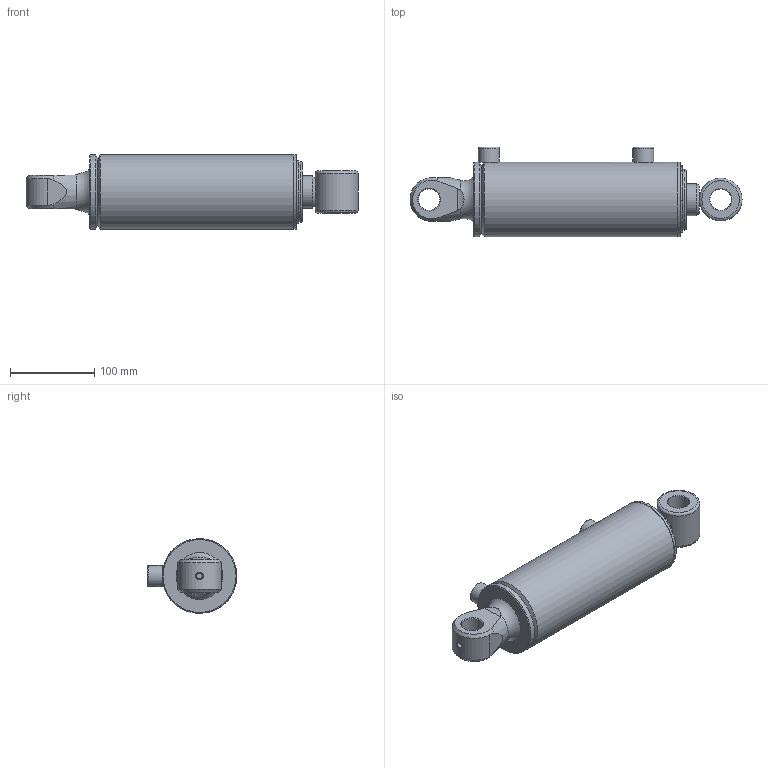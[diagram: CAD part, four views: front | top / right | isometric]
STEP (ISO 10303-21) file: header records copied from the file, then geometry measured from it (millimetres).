
FILE_DESCRIPTION(/* description */ ('Alibre Inc.'),/* implementation_level */ '2;1');
FILE_NAME(/* name */ 'export0',/* time_stamp */ '2016-08-16T09:58:34+12:00',/* author */ (''),/* organization */ (''),/* preprocessor_version */ 'ST-DEVELOPER v14',/* originating_system */ 'Alibre',/* authorisation */ '');
FILE_SCHEMA (('AUTOMOTIVE_DESIGN'));
Length unit declared in the file: centimetre
Bounding box: 395.13 x 106.9 x 88.9 mm (x, y, z)
Volume: 1184002.5 mm3; surface area: 270476 mm2
Topology: 12 solids, 12 shells, 157 faces, 332 edges, 209 vertices
Faces by surface type: cylinder 61, plane 57, cone 23, torus 13, sphere 2, bspline 1
Full cylindrical faces by diameter (mm): 7 x1, 8.3 x2, 8.8 x1, 9.525 x2, 15.25 x2, 23 x1, 23.622 x1, 25 x2, 25.4 x2, 25.451 x1, 38.1 x2, 38.18 x2, 44.45 x1, 46.9 x2, 47.62 x2, 50.8 x1, 60.33 x1, 69.2 x1, 70.36 x1, 71.6 x2, 72.57 x2, 72.87 x1, 74.83 x2, 76.09 x2, 76.1 x1, 76.2 x2, 79.4 x1, 88.9 x3
Entity records: 4365 total; most frequent: CARTESIAN_POINT 1210, DIRECTION 599, ORIENTED_EDGE 456, AXIS2_PLACEMENT_3D 310, FACE_BOUND 271, EDGE_LOOP 269, EDGE_CURVE 228, VERTEX_POINT 191
